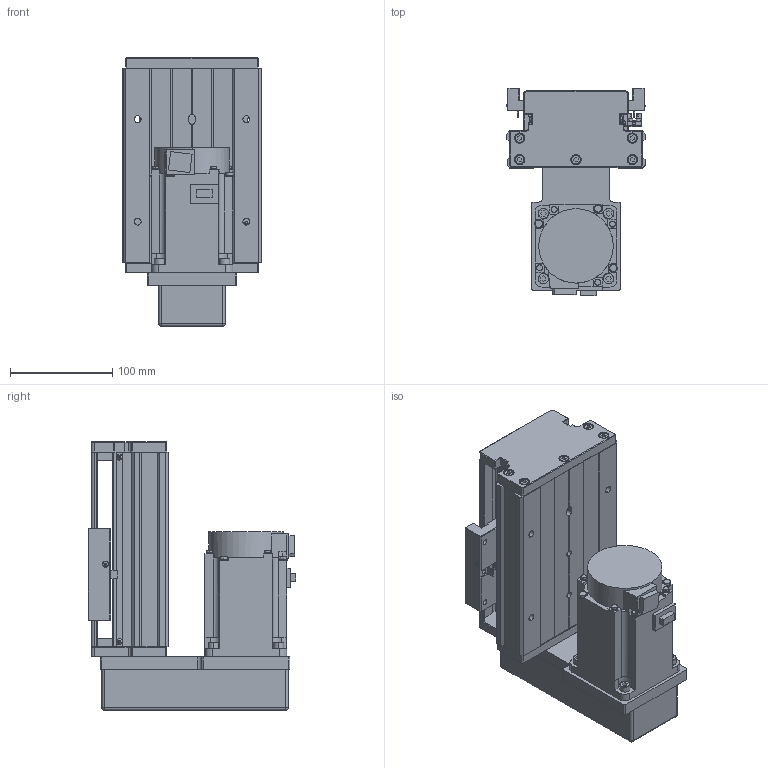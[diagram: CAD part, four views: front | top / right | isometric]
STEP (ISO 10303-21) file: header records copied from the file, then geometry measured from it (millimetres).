
FILE_DESCRIPTION (( 'STEP AP203' ), '1' );
FILE_NAME ('KTH130-50-BM-M75-C4.step', '2023-06-30T04:37:40', ( '微软用户' ), ( '微软中国' ), 'SwSTEP 2.0', 'SolidWorks 2020', '' );
FILE_SCHEMA (( 'CONFIG_CONTROL_DESIGN' ));
Length unit declared in the file: millimetre
Products named in the file (18): KTH130-50-BM-M75-C4; GB1155-6X6; GBT77-2000 M3×3; GBT70.1 M5℅16; す晦芛蹟隊 M3℅5; GBT 70.2-M3¡Á5_M3¡Á6; GBT 70.3-M3℅8; GTH14-001_50; CTHA60-017; hg-kn73j_-s100; KTH130-002_KTH130-002; EE_SX911P_R; CTHA86-015-3_CTHA86-015-4; KTH130-004; CTHA60-016; CTHA86-035; KTH130-005; GBT 70.1-M3℅5
Assembly tree (49 placements, depth 2):
  KTH130-50-BM-M75-C4
    GTH14-001_50
    KTH130-002_KTH130-002
    KTH130-004
    KTH130-005
    GB1155-6X6  x2
    GBT70.1 M5℅16  x10
    GBT 70.2-M3¡Á5_M3¡Á6  x4
    CTHA60-017  x3
    EE_SX911P_R  x3
    CTHA60-016  x2
    GBT 70.1-M3℅5  x6
    GBT77-2000 M3×3  x6
    す晦芛蹟隊 M3℅5  x2
    GBT 70.3-M3℅8  x4
    hg-kn73j_-s100
    CTHA86-015-3_CTHA86-015-4
    CTHA86-035
Bounding box: 135 x 202.8 x 262 mm (x, y, z)
Volume: 2651539.7 mm3; surface area: 389591.3 mm2
Topology: 52 solids, 52 shells, 2162 faces, 5244 edges, 3279 vertices
Faces by surface type: plane 1202, cylinder 606, cone 238, torus 100, sphere 16
Entity records: 39021 total; most frequent: CARTESIAN_POINT 6572, DIRECTION 6397, ORIENTED_EDGE 5992, EDGE_CURVE 2996, AXIS2_PLACEMENT_3D 2222, VECTOR 1953, LINE 1953, VERTEX_POINT 1913
